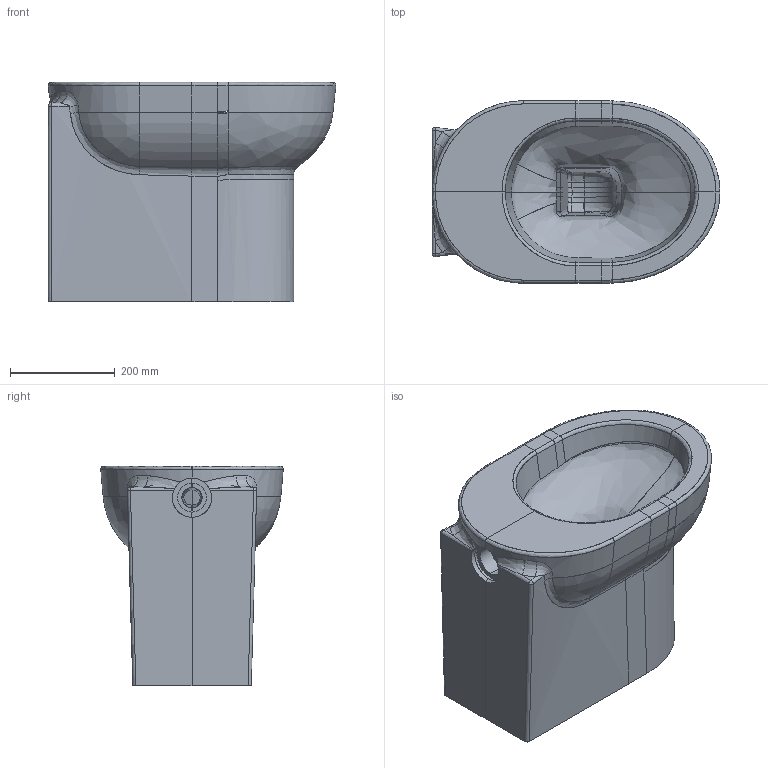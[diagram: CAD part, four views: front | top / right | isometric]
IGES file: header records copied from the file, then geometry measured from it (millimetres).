
Start section: START RECORD GO HERE.
Global section: file name: ART 5216 VASO TERRA 50 M2.igs; native system: DASSAULT SYSTEMES CATIA V5 R19 - www.3ds.com; preprocessor: CATIA Version 5 Release 19 SP 5 ; author: Luca; organization: DESKTOP-V7SON24; date: 20201026.090202; units: millimetre
Bounding box: 550.53 x 349.16 x 419.83 mm (x, y, z)
Surface area: 945054.8 mm2 (no closed solid volume)
Topology: 0 solids, 0 shells, 194 faces, 1479 edges, 1471 vertices
Faces by surface type: bspline 166, plane 28
